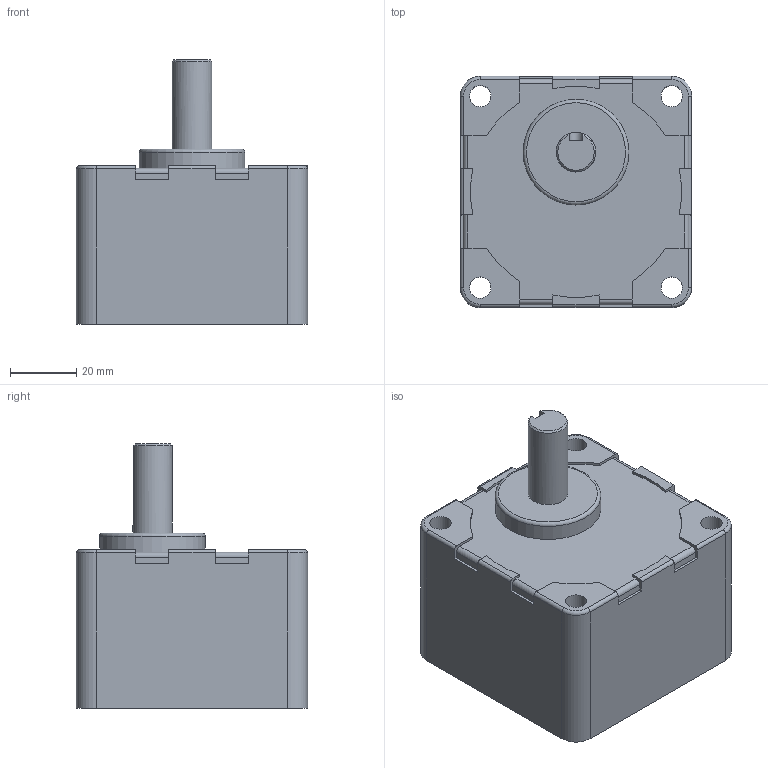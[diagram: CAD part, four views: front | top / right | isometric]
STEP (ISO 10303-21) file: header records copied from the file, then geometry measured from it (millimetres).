
FILE_DESCRIPTION(/* description */ (''),/* implementation_level */ '2;1');
FILE_NAME(/* name */ 'E:\도면작업\2016\0704) 미주향 SG 도면\3D GEAR HEAD\SG7KA15~360.stp',/* time_stamp */ '2016-07-22T14:02:09+09:00',/* author */ ('jy-jung'),/* organization */ (''),/* preprocessor_version */ 'ST-DEVELOPER v15.6',/* originating_system */ 'Autodesk Inventor 2015',/* authorisation */ '');
FILE_SCHEMA (('AUTOMOTIVE_DESIGN { 1 0 10303 214 3 1 1 }'));
Length unit declared in the file: millimetre
Products named in the file (1): SG7KA15~360
Bounding box: 70 x 70 x 80 mm (x, y, z)
Volume: 223113.7 mm3; surface area: 28800.8 mm2
Topology: 1 solids, 1 shells, 101 faces, 275 edges, 180 vertices
Faces by surface type: plane 53, cylinder 40, torus 5, cone 3
Full cylindrical faces by diameter (mm): 6.5 x4, 7.5 x1, 12 x1, 32 x1, 65 x1
Entity records: 3184 total; most frequent: CARTESIAN_POINT 566, DIRECTION 550, ORIENTED_EDGE 526, EDGE_CURVE 263, AXIS2_PLACEMENT_3D 189, VERTEX_POINT 179, LINE 172, VECTOR 172
